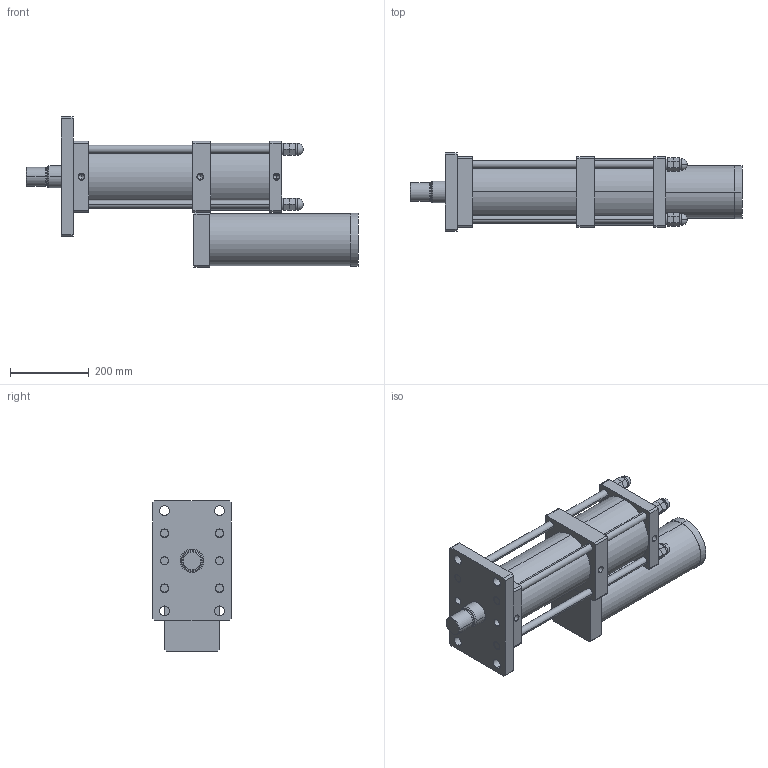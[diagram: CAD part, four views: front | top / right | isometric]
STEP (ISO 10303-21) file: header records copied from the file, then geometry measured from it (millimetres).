
FILE_DESCRIPTION (( 'STEP AP203' ), '1' );
FILE_NAME ('CPT-125-200-5-20T.STEP', '2016-03-12T02:02:36', ( 'WIN' ), ( '' ), 'SwSTEP 2.0', 'SolidWorks 2014', '' );
FILE_SCHEMA (( 'CONFIG_CONTROL_DESIGN' ));
Length unit declared in the file: millimetre
Products named in the file (1): CPT-125-200-5-20T
Bounding box: 845.5 x 200 x 382.5 mm (x, y, z)
Volume: 15625179.7 mm3; surface area: 1252357.8 mm2
Topology: 17 solids, 17 shells, 320 faces, 732 edges, 458 vertices
Faces by surface type: plane 154, cylinder 124, cone 30, sphere 8, torus 4
Entity records: 8963 total; most frequent: DIRECTION 1652, CARTESIAN_POINT 1479, ORIENTED_EDGE 1416, EDGE_CURVE 708, AXIS2_PLACEMENT_3D 623, VERTEX_POINT 450, VECTOR 406, LINE 406
